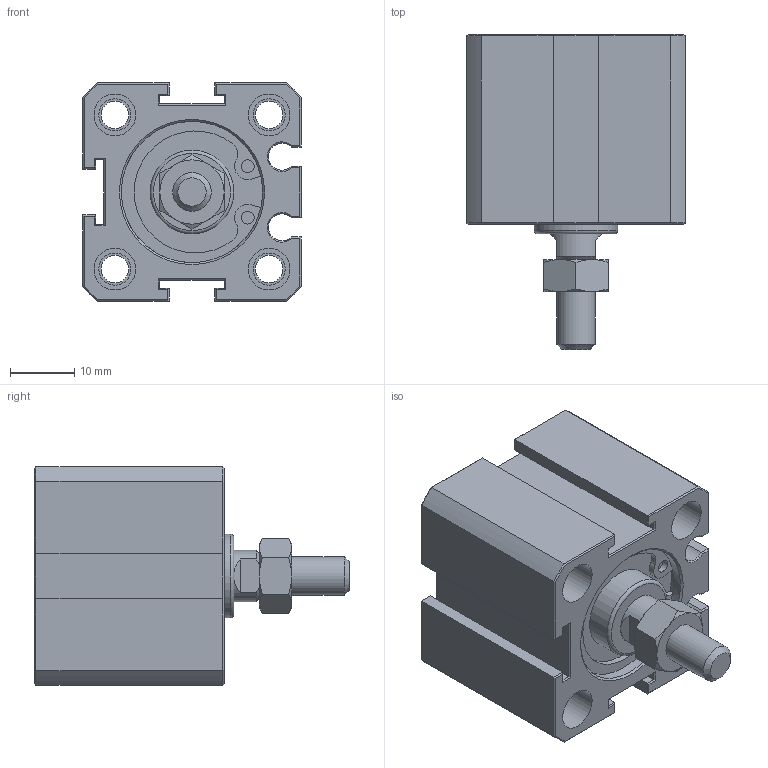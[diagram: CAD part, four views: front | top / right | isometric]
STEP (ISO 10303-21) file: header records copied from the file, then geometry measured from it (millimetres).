
FILE_DESCRIPTION(/* description */ (''),/* implementation_level */ '2;1');
FILE_NAME(/* name */ 'AJC-SD20X10W',/* time_stamp */ '2019-07-05T09:40:17+08:00',/* author */ ('JEFF HUANG'),/* organization */ ('TAIWAN AMAC CLAMP INDUSTRIAL CO., LTD.'),/* preprocessor_version */ 'ST-DEVELOPER v16.7',/* originating_system */ 'DEX',/* authorisation */ $);
FILE_SCHEMA (('AUTOMOTIVE_DESIGN {1 0 10303 214 3 1 1}'));
Length unit declared in the file: millimetre
Products named in the file (1): AJC-SD20X10W
Bounding box: 34 x 49 x 34 mm (x, y, z)
Volume: 27294.2 mm3; surface area: 10756.8 mm2
Topology: 1 solids, 1 shells, 233 faces, 505 edges, 303 vertices
Faces by surface type: plane 151, cylinder 51, cone 29, torus 2
Full cylindrical faces by diameter (mm): 2 x4, 4.3 x4, 5 x10, 6 x1, 6.5 x8, 13 x2, 22 x2
Entity records: 7717 total; most frequent: CARTESIAN_POINT 1154, DIRECTION 1020, ORIENTED_EDGE 930, EDGE_CURVE 465, AXIS2_PLACEMENT_3D 373, EDGE_LOOP 306, FACE_BOUND 306, VERTEX_POINT 299
